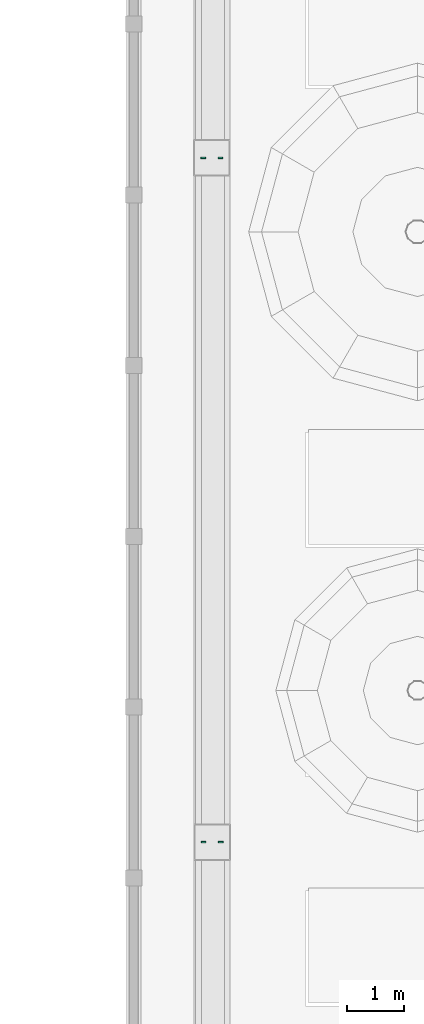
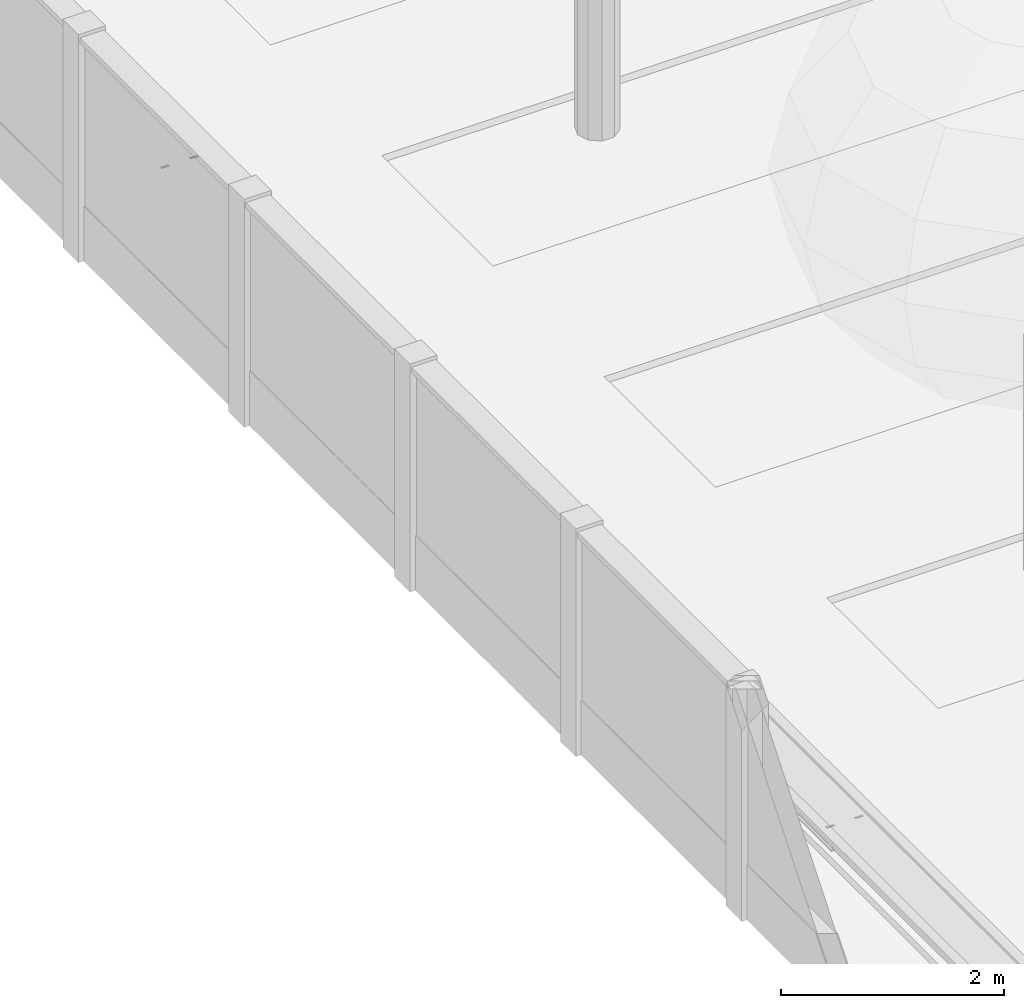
# One storey, part 138 of 177: 4 distribution chamber elements.
"""IFC4 building model written with IfcOpenShell, lengths in metres."""

from ifc_helpers import new_model, si_unit, origin, origin_with_axes, place, context, subcontext, project, spatial, triangles, element, save


model = new_model("IFC4")

# Units and contexts
model_context = context("Model", 3, precision=1e-05, world=origin_with_axes())
body_context = subcontext(model_context, "Body", "Model", "MODEL_VIEW")
ifc_project = project(units=[si_unit("LENGTHUNIT", "METRE"), si_unit("AREAUNIT", "SQUARE_METRE"), si_unit("VOLUMEUNIT", "CUBIC_METRE"), si_unit("PLANEANGLEUNIT", "RADIAN")], contexts=[model_context])

# Site, building, storey
site_placement = place(None, origin_with_axes())
site = spatial("IfcSite", under=ifc_project, at=site_placement, Name="Predio Los Mangos - Morales, San Martín", CompositionType="ELEMENT")
building_placement = place(site_placement, origin())
building = spatial("IfcBuilding", under=site, at=building_placement, Name="Hogar de Refugio Temporal", CompositionType="ELEMENT")
storey_placement = place(building_placement, origin())
storey = spatial("IfcBuildingStorey", under=building, at=storey_placement, Name="NIVEL 1 (NPT +0.00)", CompositionType="ELEMENT", Elevation=0.0)

# Distribution chamber elements
distribution_chamber_element_1_placement = place(storey_placement, origin())
element("IfcDistributionChamberElement", 1, at=distribution_chamber_element_1_placement, inside=storey, Name="tapa_insp_asa", ObjectType="Tapa de inspección", PredefinedType="INSPECTIONCHAMBER", context=body_context, shape_type="Tessellation", body=[
    triangles([(2.222, 69.28, 0.104), (2.302, 69.28, 0.104), (2.302, 69.304, 0.104), (2.222, 69.304, 0.104), (2.222, 69.28, 0.108), (2.302, 69.28, 0.108), (2.302, 69.304, 0.108), (2.222, 69.304, 0.108)], [[1, 4, 3], [1, 3, 2], [5, 6, 7], [5, 7, 8], [1, 2, 6], [1, 6, 5], [2, 3, 7], [2, 7, 6], [3, 4, 8], [3, 8, 7], [4, 1, 5], [4, 5, 8]]),
])
distribution_chamber_element_2_placement = place(storey_placement, origin())
element("IfcDistributionChamberElement", 2, at=distribution_chamber_element_2_placement, inside=storey, Name="tapa_insp_asa", ObjectType="Tapa de inspección", PredefinedType="INSPECTIONCHAMBER", context=body_context, shape_type="Tessellation", body=[
    triangles([(2.522, 69.28, 0.104), (2.602, 69.28, 0.104), (2.602, 69.304, 0.104), (2.522, 69.304, 0.104), (2.522, 69.28, 0.108), (2.602, 69.28, 0.108), (2.602, 69.304, 0.108), (2.522, 69.304, 0.108)], [[1, 4, 3], [1, 3, 2], [5, 6, 7], [5, 7, 8], [1, 2, 6], [1, 6, 5], [2, 3, 7], [2, 7, 6], [3, 4, 8], [3, 8, 7], [4, 1, 5], [4, 5, 8]]),
])
distribution_chamber_element_3_placement = place(storey_placement, origin())
element("IfcDistributionChamberElement", 3, at=distribution_chamber_element_3_placement, inside=storey, Name="tapa_insp_asa", ObjectType="Tapa de inspección", PredefinedType="INSPECTIONCHAMBER", context=body_context, shape_type="Tessellation", body=[
    triangles([(2.228, 57.343, 0.104), (2.308, 57.343, 0.104), (2.308, 57.367, 0.104), (2.228, 57.367, 0.104), (2.228, 57.343, 0.108), (2.308, 57.343, 0.108), (2.308, 57.367, 0.108), (2.228, 57.367, 0.108)], [[1, 4, 3], [1, 3, 2], [5, 6, 7], [5, 7, 8], [1, 2, 6], [1, 6, 5], [2, 3, 7], [2, 7, 6], [3, 4, 8], [3, 8, 7], [4, 1, 5], [4, 5, 8]]),
])
distribution_chamber_element_4_placement = place(storey_placement, origin())
element("IfcDistributionChamberElement", 4, at=distribution_chamber_element_4_placement, inside=storey, Name="tapa_insp_asa", ObjectType="Tapa de inspección", PredefinedType="INSPECTIONCHAMBER", context=body_context, shape_type="Tessellation", body=[
    triangles([(2.528, 57.343, 0.104), (2.608, 57.343, 0.104), (2.608, 57.367, 0.104), (2.528, 57.367, 0.104), (2.528, 57.343, 0.108), (2.608, 57.343, 0.108), (2.608, 57.367, 0.108), (2.528, 57.367, 0.108)], [[1, 4, 3], [1, 3, 2], [5, 6, 7], [5, 7, 8], [1, 2, 6], [1, 6, 5], [2, 3, 7], [2, 7, 6], [3, 4, 8], [3, 8, 7], [4, 1, 5], [4, 5, 8]]),
])

save(model, "model.ifc")
